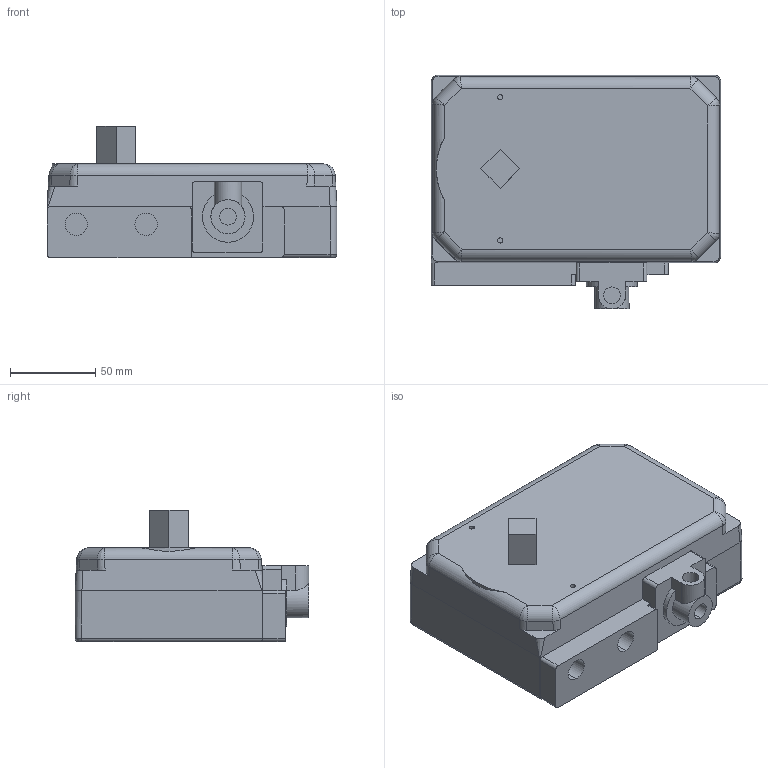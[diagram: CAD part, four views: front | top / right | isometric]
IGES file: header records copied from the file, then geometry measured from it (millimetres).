
Start section: C
Global section: file name: 074-050AP  SIMPLE AP POS..igs; native system:  By UGS Corp.; preprocessor: XPlus GENERIC/IGES 3.0; author: Author; organization: Title; date: 20110426.154042; units: millimetre
Bounding box: 170 x 137.2 x 77 mm (x, y, z)
Volume: 1054405.5 mm3; surface area: 81229.3 mm2
Topology: 1 solids, 2 shells, 149 faces, 347 edges, 210 vertices
Faces by surface type: cylinder 69, plane 61, bspline 16, extrusion 3
